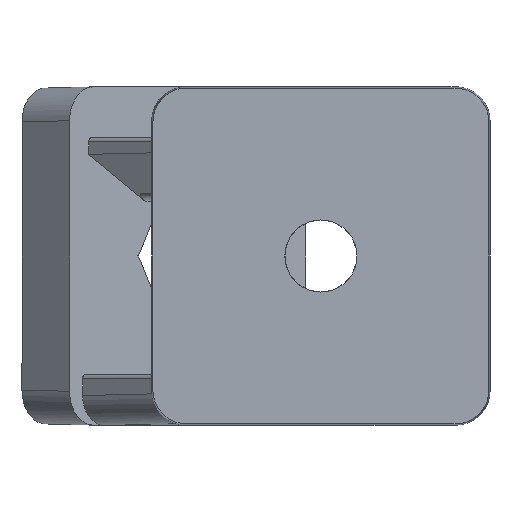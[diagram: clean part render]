
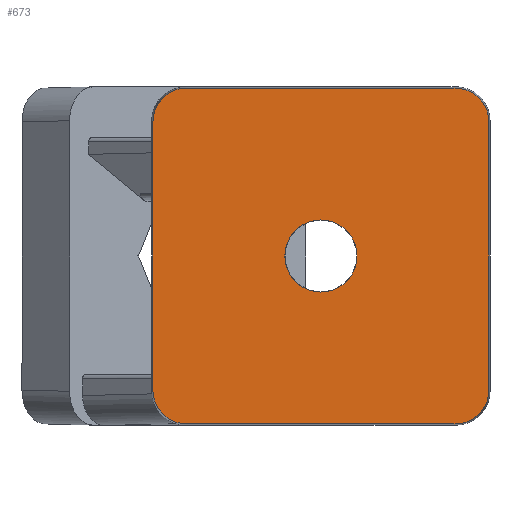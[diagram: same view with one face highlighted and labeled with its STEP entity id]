
A CAD part, front view. The second image highlights one B-rep face of the part: STEP entity #673.
In plain terms, the highlighted planar face has unit normal (0, -1, 0).
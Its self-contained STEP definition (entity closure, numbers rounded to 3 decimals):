
#63 = EDGE_CURVE ( 'NONE', #4223, #1867, #2565, .T. ) ;
#116 = CARTESIAN_POINT ( 'NONE',  ( 19.86, -8., 18.204 ) ) ;
#123 =( BOUNDED_CURVE ( )  B_SPLINE_CURVE ( 3, ( #4738, #5679, #1931, #1002 ),
 .UNSPECIFIED., .F., .T. ) 
 B_SPLINE_CURVE_WITH_KNOTS ( ( 4, 4 ),
 ( 5.498, 7.068 ),
 .UNSPECIFIED. ) 
 CURVE ( )  GEOMETRIC_REPRESENTATION_ITEM ( )  RATIONAL_B_SPLINE_CURVE ( ( 1., 0.805, 0.805, 1. ) ) 
 REPRESENTATION_ITEM ( '' )  );
#147 = CIRCLE ( 'NONE', #3125, 4.26 ) ;
#212 = VERTEX_POINT ( 'NONE', #3005 ) ;
#215 = ORIENTED_EDGE ( 'NONE', *, *, #5548, .F. ) ;
#267 = DIRECTION ( 'NONE',  ( 0., 0., 1. ) ) ;
#299 = EDGE_CURVE ( 'NONE', #5276, #5298, #1273, .T. ) ;
#319 = CARTESIAN_POINT ( 'NONE',  ( 19.86, -8., -15.861 ) ) ;
#477 = EDGE_CURVE ( 'NONE', #5456, #5276, #3701, .T. ) ;
#546 = AXIS2_PLACEMENT_3D ( 'NONE', #4039, #5974, #267 ) ;
#673 = ADVANCED_FACE ( 'NONE', ( #3569, #3598 ), #2149, .F. ) ;
#683 = CARTESIAN_POINT ( 'NONE',  ( 0., -8., -4.26 ) ) ;
#835 =( BOUNDED_CURVE ( )  B_SPLINE_CURVE ( 3, ( #319, #1741, #3660, #3339 ),
 .UNSPECIFIED., .F., .T. ) 
 B_SPLINE_CURVE_WITH_KNOTS ( ( 4, 4 ),
 ( 5.498, 7.068 ),
 .UNSPECIFIED. ) 
 CURVE ( )  GEOMETRIC_REPRESENTATION_ITEM ( )  RATIONAL_B_SPLINE_CURVE ( ( 1., 0.805, 0.805, 1. ) ) 
 REPRESENTATION_ITEM ( '' )  );
#987 = CARTESIAN_POINT ( 'NONE',  ( -18.204, -8., -19.86 ) ) ;
#1001 = DIRECTION ( 'NONE',  ( -1., 0., 0. ) ) ;
#1002 = CARTESIAN_POINT ( 'NONE',  ( -15.861, -8., 19.86 ) ) ;
#1027 = EDGE_CURVE ( 'NONE', #1364, #212, #835, .T. ) ;
#1273 =( BOUNDED_CURVE ( )  B_SPLINE_CURVE ( 3, ( #1637, #4866, #116, #2590 ),
 .UNSPECIFIED., .F., .T. ) 
 B_SPLINE_CURVE_WITH_KNOTS ( ( 4, 4 ),
 ( 5.498, 7.068 ),
 .UNSPECIFIED. ) 
 CURVE ( )  GEOMETRIC_REPRESENTATION_ITEM ( )  RATIONAL_B_SPLINE_CURVE ( ( 1., 0.805, 0.805, 1. ) ) 
 REPRESENTATION_ITEM ( '' )  );
#1364 = VERTEX_POINT ( 'NONE', #1648 ) ;
#1384 = VERTEX_POINT ( 'NONE', #5867 ) ;
#1446 = EDGE_CURVE ( 'NONE', #1384, #2418, #147, .T. ) ;
#1533 = VECTOR ( 'NONE', #1001, 1000. ) ;
#1583 = CARTESIAN_POINT ( 'NONE',  ( -19.86, -8., 15.861 ) ) ;
#1631 = LINE ( 'NONE', #3065, #3999 ) ;
#1637 = CARTESIAN_POINT ( 'NONE',  ( 15.861, -8., 19.86 ) ) ;
#1648 = CARTESIAN_POINT ( 'NONE',  ( 19.86, -8., -15.861 ) ) ;
#1728 = CARTESIAN_POINT ( 'NONE',  ( 19.86, -8., 25. ) ) ;
#1741 = CARTESIAN_POINT ( 'NONE',  ( 19.86, -8., -18.204 ) ) ;
#1857 = EDGE_CURVE ( 'NONE', #212, #4223, #5270, .T. ) ;
#1867 = VERTEX_POINT ( 'NONE', #4830 ) ;
#1931 = CARTESIAN_POINT ( 'NONE',  ( -18.204, -8., 19.86 ) ) ;
#2149 = PLANE ( 'NONE',  #546 ) ;
#2153 = DIRECTION ( 'NONE',  ( 0., 0., 1. ) ) ;
#2340 = CARTESIAN_POINT ( 'NONE',  ( 15.861, -8., 19.86 ) ) ;
#2418 = VERTEX_POINT ( 'NONE', #683 ) ;
#2440 = DIRECTION ( 'NONE',  ( 0., 0., 1. ) ) ;
#2558 = DIRECTION ( 'NONE',  ( 0., 0., 1. ) ) ;
#2565 =( BOUNDED_CURVE ( )  B_SPLINE_CURVE ( 3, ( #3773, #987, #3801, #6124 ),
 .UNSPECIFIED., .F., .T. ) 
 B_SPLINE_CURVE_WITH_KNOTS ( ( 4, 4 ),
 ( 5.498, 7.068 ),
 .UNSPECIFIED. ) 
 CURVE ( )  GEOMETRIC_REPRESENTATION_ITEM ( )  RATIONAL_B_SPLINE_CURVE ( ( 1., 0.805, 0.805, 1. ) ) 
 REPRESENTATION_ITEM ( '' )  );
#2590 = CARTESIAN_POINT ( 'NONE',  ( 19.86, -8., 15.861 ) ) ;
#2636 = ORIENTED_EDGE ( 'NONE', *, *, #5137, .F. ) ;
#2866 = CARTESIAN_POINT ( 'NONE',  ( -25., -8., -19.86 ) ) ;
#3005 = CARTESIAN_POINT ( 'NONE',  ( 15.861, -8., -19.86 ) ) ;
#3034 = DIRECTION ( 'NONE',  ( 0., -1., 0. ) ) ;
#3065 = CARTESIAN_POINT ( 'NONE',  ( -19.86, -8., 25. ) ) ;
#3125 = AXIS2_PLACEMENT_3D ( 'NONE', #6027, #6144, #2440 ) ;
#3176 = ORIENTED_EDGE ( 'NONE', *, *, #1027, .F. ) ;
#3178 = EDGE_LOOP ( 'NONE', ( #5273, #5056 ) ) ;
#3339 = CARTESIAN_POINT ( 'NONE',  ( 15.861, -8., -19.86 ) ) ;
#3406 = ORIENTED_EDGE ( 'NONE', *, *, #3848, .F. ) ;
#3536 = ORIENTED_EDGE ( 'NONE', *, *, #477, .F. ) ;
#3569 = FACE_BOUND ( 'NONE', #3178, .T. ) ;
#3598 = FACE_OUTER_BOUND ( 'NONE', #4194, .T. ) ;
#3660 = CARTESIAN_POINT ( 'NONE',  ( 18.204, -8., -19.86 ) ) ;
#3701 = LINE ( 'NONE', #5564, #3726 ) ;
#3726 = VECTOR ( 'NONE', #4075, 1000. ) ;
#3773 = CARTESIAN_POINT ( 'NONE',  ( -15.861, -8., -19.86 ) ) ;
#3801 = CARTESIAN_POINT ( 'NONE',  ( -19.86, -8., -18.204 ) ) ;
#3813 = EDGE_CURVE ( 'NONE', #2418, #1384, #4688, .T. ) ;
#3815 = DIRECTION ( 'NONE',  ( 0., 0., -1. ) ) ;
#3848 = EDGE_CURVE ( 'NONE', #1867, #4373, #1631, .T. ) ;
#3999 = VECTOR ( 'NONE', #2153, 1000. ) ;
#4039 = CARTESIAN_POINT ( 'NONE',  ( -25., -8., 25. ) ) ;
#4075 = DIRECTION ( 'NONE',  ( 1., 0., 0. ) ) ;
#4194 = EDGE_LOOP ( 'NONE', ( #2636, #3406, #5487, #5390, #3176, #215, #5539, #3536 ) ) ;
#4223 = VERTEX_POINT ( 'NONE', #6006 ) ;
#4373 = VERTEX_POINT ( 'NONE', #1583 ) ;
#4565 = LINE ( 'NONE', #1728, #5099 ) ;
#4688 = CIRCLE ( 'NONE', #4779, 4.26 ) ;
#4738 = CARTESIAN_POINT ( 'NONE',  ( -19.86, -8., 15.861 ) ) ;
#4779 = AXIS2_PLACEMENT_3D ( 'NONE', #4978, #3034, #2558 ) ;
#4830 = CARTESIAN_POINT ( 'NONE',  ( -19.86, -8., -15.861 ) ) ;
#4866 = CARTESIAN_POINT ( 'NONE',  ( 18.204, -8., 19.86 ) ) ;
#4978 = CARTESIAN_POINT ( 'NONE',  ( 0., -8., 0. ) ) ;
#5056 = ORIENTED_EDGE ( 'NONE', *, *, #3813, .F. ) ;
#5099 = VECTOR ( 'NONE', #3815, 1000. ) ;
#5108 = CARTESIAN_POINT ( 'NONE',  ( -15.861, -8., 19.86 ) ) ;
#5137 = EDGE_CURVE ( 'NONE', #4373, #5456, #123, .T. ) ;
#5270 = LINE ( 'NONE', #2866, #1533 ) ;
#5273 = ORIENTED_EDGE ( 'NONE', *, *, #1446, .F. ) ;
#5276 = VERTEX_POINT ( 'NONE', #2340 ) ;
#5298 = VERTEX_POINT ( 'NONE', #5736 ) ;
#5390 = ORIENTED_EDGE ( 'NONE', *, *, #1857, .F. ) ;
#5456 = VERTEX_POINT ( 'NONE', #5108 ) ;
#5487 = ORIENTED_EDGE ( 'NONE', *, *, #63, .F. ) ;
#5539 = ORIENTED_EDGE ( 'NONE', *, *, #299, .F. ) ;
#5548 = EDGE_CURVE ( 'NONE', #5298, #1364, #4565, .T. ) ;
#5564 = CARTESIAN_POINT ( 'NONE',  ( -25., -8., 19.86 ) ) ;
#5679 = CARTESIAN_POINT ( 'NONE',  ( -19.86, -8., 18.204 ) ) ;
#5736 = CARTESIAN_POINT ( 'NONE',  ( 19.86, -8., 15.861 ) ) ;
#5867 = CARTESIAN_POINT ( 'NONE',  ( 0., -8., 4.26 ) ) ;
#5974 = DIRECTION ( 'NONE',  ( 0., 1., 0. ) ) ;
#6006 = CARTESIAN_POINT ( 'NONE',  ( -15.861, -8., -19.86 ) ) ;
#6027 = CARTESIAN_POINT ( 'NONE',  ( 0., -8., 0. ) ) ;
#6124 = CARTESIAN_POINT ( 'NONE',  ( -19.86, -8., -15.861 ) ) ;
#6144 = DIRECTION ( 'NONE',  ( 0., -1., 0. ) ) ;
